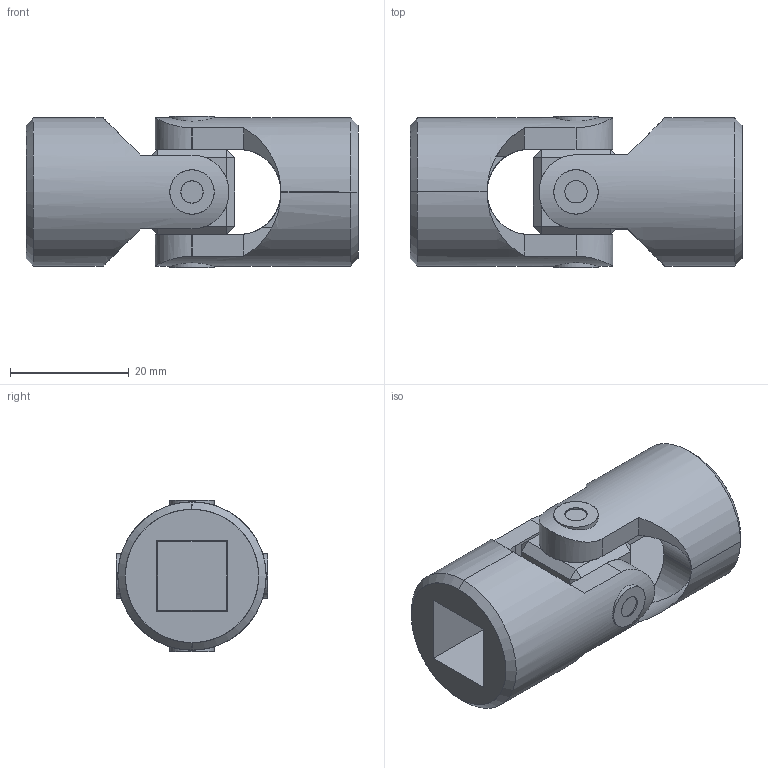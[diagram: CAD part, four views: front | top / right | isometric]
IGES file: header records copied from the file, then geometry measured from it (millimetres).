
Start section: SolidWorks IGES file using analytic representation for surfaces
Global section: file name: C:\Users\IanO\Desktop\R3690_v2\R3690_v2_20231020_IGES\R3690.012-SB.igs; native system: SolidWorks 2019; preprocessor: SolidWorks 2019; author: IanO; date: 231020.152931; units: millimetre
Bounding box: 56 x 25.5 x 25.5 mm (x, y, z)
Surface area: 10168.4 mm2 (no closed solid volume)
Topology: 0 solids, 0 shells, 108 faces, 2004 edges, 2004 vertices
Faces by surface type: bspline 64, revolution 44
